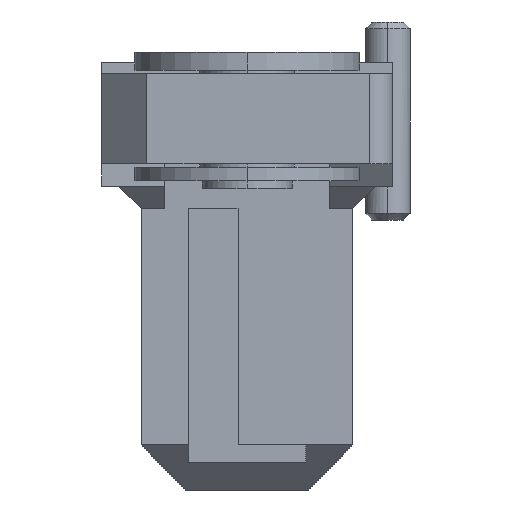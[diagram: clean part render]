
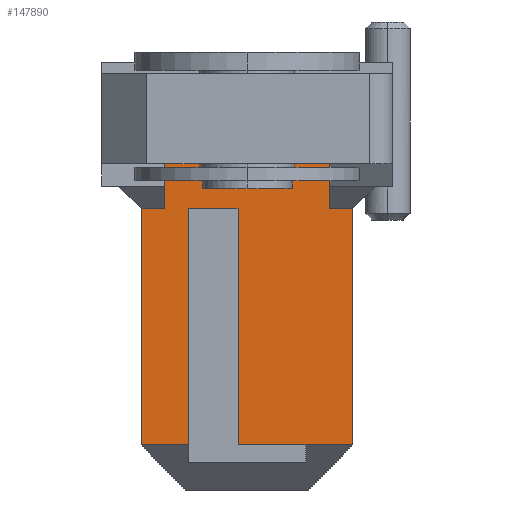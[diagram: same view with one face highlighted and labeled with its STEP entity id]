
A CAD part, left-side view. The second image highlights one B-rep face of the part: STEP entity #147890.
In plain terms, the highlighted planar face has unit normal (-1, 0, 0).
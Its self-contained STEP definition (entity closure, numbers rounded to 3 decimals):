
#145960=CARTESIAN_POINT('',(-14.278,-2.336,-4.5));
#145970=VERTEX_POINT('',#145960);
#146000=CARTESIAN_POINT('',(-14.278,0.,-4.5
));
#146010=DIRECTION('',(0.,-1.,0.));
#146020=VECTOR('',#146010,1.);
#146030=LINE('',#146000,#146020);
#146040=CARTESIAN_POINT('',(-14.278,4.964,-4.5));
#146050=VERTEX_POINT('',#146040);
#146060=EDGE_CURVE('',#146050,#145970,#146030,.T.);
#146870=CARTESIAN_POINT('',(-14.278,-3.386,-19.));
#146880=DIRECTION('',(-1.,0.,0.));
#146890=DIRECTION('',(0.,-1.,0.));
#146900=AXIS2_PLACEMENT_3D('',#146870,#146880,#146890);
#146910=PLANE('',#146900);
#146920=CARTESIAN_POINT('',(-14.278,3.914,0.));
#146930=DIRECTION('',(0.,0.,1.));
#146940=VECTOR('',#146930,1.);
#146950=LINE('',#146920,#146940);
#146960=CARTESIAN_POINT('',(-14.278,3.914,-17.));
#146970=VERTEX_POINT('',#146960);
#146980=CARTESIAN_POINT('',(-14.278,3.914,
-6.5));
#146990=VERTEX_POINT('',#146980);
#147000=EDGE_CURVE('',#146970,#146990,#146950,.T.);
#147010=ORIENTED_EDGE('',*,*,#147000,.T.);
#147020=CARTESIAN_POINT('',(-14.278,0.,-17.
));
#147030=DIRECTION('',(0.,-1.,0.));
#147040=VECTOR('',#147030,1.);
#147050=LINE('',#147020,#147040);
#147060=CARTESIAN_POINT('',(-14.278,6.014,-17.));
#147070=VERTEX_POINT('',#147060);
#147080=EDGE_CURVE('',#147070,#146970,#147050,.T.);
#147090=ORIENTED_EDGE('',*,*,#147080,.T.);
#147100=CARTESIAN_POINT('',(-14.278,6.014,0.));
#147110=DIRECTION('',(0.,0.,1.));
#147120=VECTOR('',#147110,1.);
#147130=LINE('',#147100,#147120);
#147140=CARTESIAN_POINT('',(-14.278,6.014,
-6.5));
#147150=VERTEX_POINT('',#147140);
#147160=EDGE_CURVE('',#147070,#147150,#147130,.T.);
#147170=ORIENTED_EDGE('',*,*,#147160,.F.);
#147180=CARTESIAN_POINT('',(-14.278,5.989,
-6.5));
#147190=DIRECTION('',(0.,1.,0.));
#147200=VECTOR('',#147190,1.);
#147210=LINE('',#147180,#147200);
#147220=CARTESIAN_POINT('',(-14.278,4.964,
-6.5));
#147230=VERTEX_POINT('',#147220);
#147240=EDGE_CURVE('',#147230,#147150,#147210,.T.);
#147250=ORIENTED_EDGE('',*,*,#147240,.T.);
#147260=CARTESIAN_POINT('',(-14.278,4.964,0.));
#147270=DIRECTION('',(0.,0.,1.));
#147280=VECTOR('',#147270,1.);
#147290=LINE('',#147260,#147280);
#147300=EDGE_CURVE('',#147230,#146050,#147290,.T.);
#147310=ORIENTED_EDGE('',*,*,#147300,.F.);
#147320=ORIENTED_EDGE('',*,*,#146060,.F.);
#147330=CARTESIAN_POINT('',(-14.278,-2.336,0.));
#147340=DIRECTION('',(0.,0.,-1.));
#147350=VECTOR('',#147340,1.);
#147360=LINE('',#147330,#147350);
#147370=CARTESIAN_POINT('',(-14.278,-2.336,
-6.5));
#147380=VERTEX_POINT('',#147370);
#147390=EDGE_CURVE('',#145970,#147380,#147360,.T.);
#147400=ORIENTED_EDGE('',*,*,#147390,.F.);
#147410=CARTESIAN_POINT('',(-14.278,0.,-6.5));
#147420=DIRECTION('',(0.,-1.,0.));
#147430=VECTOR('',#147420,1.);
#147440=LINE('',#147410,#147430);
#147450=CARTESIAN_POINT('',(-14.278,-3.386,
-6.5));
#147460=VERTEX_POINT('',#147450);
#147470=EDGE_CURVE('',#147380,#147460,#147440,.T.);
#147480=ORIENTED_EDGE('',*,*,#147470,.F.);
#147490=CARTESIAN_POINT('',(-14.278,-3.386,0.));
#147500=DIRECTION('',(0.,0.,-1.));
#147510=VECTOR('',#147500,1.);
#147520=LINE('',#147490,#147510);
#147530=CARTESIAN_POINT('',(-14.278,-3.386,-17.));
#147540=VERTEX_POINT('',#147530);
#147550=EDGE_CURVE('',#147460,#147540,#147520,.T.);
#147560=ORIENTED_EDGE('',*,*,#147550,.F.);
#147570=CARTESIAN_POINT('',(-14.278,0.,-17.
));
#147580=DIRECTION('',(0.,-1.,0.));
#147590=VECTOR('',#147580,1.);
#147600=LINE('',#147570,#147590);
#147610=CARTESIAN_POINT('',(-14.278,-1.286,-17.));
#147620=VERTEX_POINT('',#147610);
#147630=EDGE_CURVE('',#147620,#147540,#147600,.T.);
#147640=ORIENTED_EDGE('',*,*,#147630,.T.);
#147650=CARTESIAN_POINT('',(-14.278,0.,-17.
));
#147660=DIRECTION('',(0.,-1.,0.));
#147670=VECTOR('',#147660,1.);
#147680=LINE('',#147650,#147670);
#147690=CARTESIAN_POINT('',(-14.278,1.714,-17.));
#147700=VERTEX_POINT('',#147690);
#147710=EDGE_CURVE('',#147700,#147620,#147680,.T.);
#147720=ORIENTED_EDGE('',*,*,#147710,.T.);
#147730=CARTESIAN_POINT('',(-14.278,1.714,0.));
#147740=DIRECTION('',(0.,0.,1.));
#147750=VECTOR('',#147740,1.);
#147760=LINE('',#147730,#147750);
#147770=CARTESIAN_POINT('',(-14.278,1.714,
-6.5));
#147780=VERTEX_POINT('',#147770);
#147790=EDGE_CURVE('',#147700,#147780,#147760,.T.);
#147800=ORIENTED_EDGE('',*,*,#147790,.F.);
#147810=CARTESIAN_POINT('',(-14.278,0.,-6.5));
#147820=DIRECTION('',(0.,1.,0.));
#147830=VECTOR('',#147820,1.);
#147840=LINE('',#147810,#147830);
#147850=EDGE_CURVE('',#147780,#146990,#147840,.T.);
#147860=ORIENTED_EDGE('',*,*,#147850,.F.);
#147870=EDGE_LOOP('',(#147860,#147800,#147720,#147640,#147560,#147480,
#147400,#147320,#147310,#147250,#147170,#147090,#147010));
#147880=FACE_OUTER_BOUND('',#147870,.T.);
#147890=ADVANCED_FACE('',(#147880),#146910,.T.);
